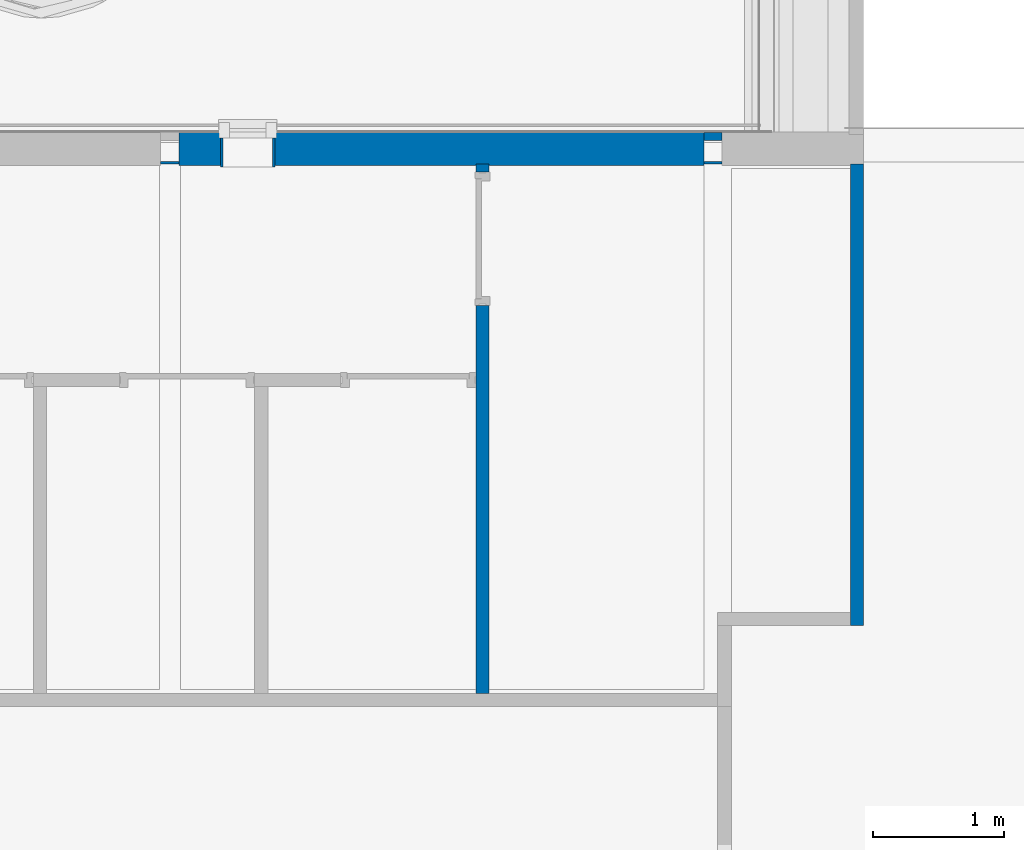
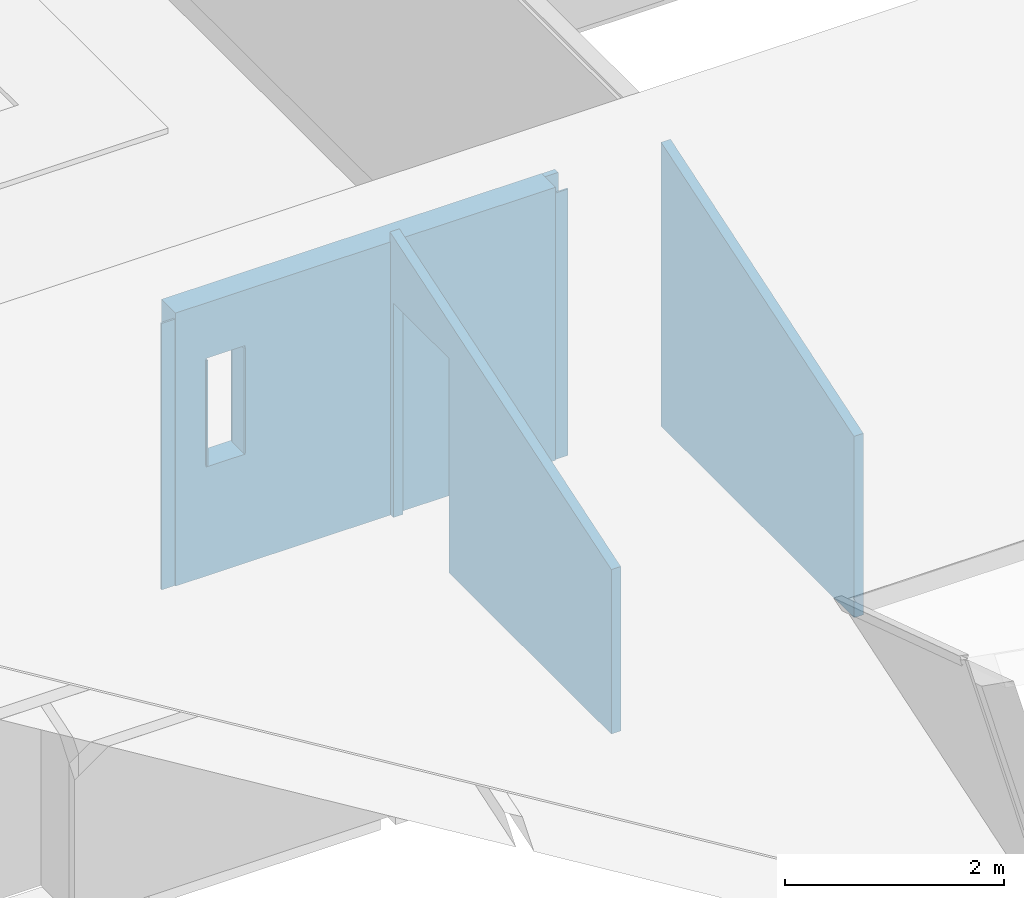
# One storey, part 22 of 66: 8 walls, 3 openings.
"""IFC2X3 building model written with IfcOpenShell, lengths in millimetres."""

import ifcopenshell
import ifcopenshell.guid

model = None  # the IFC model being written
_history = None  # IfcOwnerHistory: only IFC2X3 demands one
_inside = {}  # id of a spatial element -> (the spatial element, [elements in it])
_under = {}  # id of a project, library or spatial element -> (it, [spatial elements below it])
_declared = {}  # id of a project -> (the project, [libraries it declares])
_typed = {}  # id of a type object -> (the type object, [elements of that type])
_made_of = {}  # id of a material, layer set ... -> (it, [elements and type objects made of it])


def new_model(schema):
    """Start an empty IFC model of exactly this schema.

    Asked for "IFC4X3", IfcOpenShell would pick the latest addendum, in which some entities
    have other attributes; the version numbers below select the first issue.
    IFC2X3 requires an IfcOwnerHistory on every rooted entity: one is made here for all.
    """
    global model, _history
    if schema == "IFC4X3":
        model = ifcopenshell.file(schema_version=(4, 3, 0, 0))
    else:
        model = ifcopenshell.file(schema=schema)
    _inside.clear()
    _under.clear()
    _declared.clear()
    _typed.clear()
    _made_of.clear()
    _history = None
    if model.schema == "IFC2X3":
        org = make("IfcOrganization", Name="unknown")
        user = make(
            "IfcPersonAndOrganization",
            ThePerson=make("IfcPerson", FamilyName="unknown"),
            TheOrganization=org,
        )
        app = make(
            "IfcApplication",
            ApplicationDeveloper=org,
            Version="unknown",
            ApplicationFullName="unknown",
            ApplicationIdentifier="unknown",
        )
        _history = make(
            "IfcOwnerHistory",
            OwningUser=user,
            OwningApplication=app,
            ChangeAction="ADDED",
            CreationDate=0,
        )
    return model


def make(cls, **values):
    """One entity of the class cls with the attributes given. An attribute that is None is left unset."""
    return model.create_entity(
        cls, **{name: value for name, value in values.items() if value is not None}
    )


def entity(cls, *values):
    """Any entity or typed value of the class cls, its attributes in the order of the schema. None: left unset."""
    e = model.create_entity(cls)
    for i, value in enumerate(values):
        if value is not None:
            e[i] = value
    return e


def rooted(cls, **values):
    """An entity with a GlobalId (a new one), such as an element, a storey or a relation."""
    return make(cls, GlobalId=ifcopenshell.guid.new(), OwnerHistory=_history, **values)


def si_unit(unit_type, name, prefix=None):
    """IfcSIUnit, for example si_unit("LENGTHUNIT", "METRE", prefix="MILLI")."""
    return make("IfcSIUnit", UnitType=unit_type, Prefix=prefix, Name=name)


def converted_unit(unit_type, name, factor, base, dimensions=None, offset=None):
    """IfcConversionBasedUnit, such as the inch: factor (a typed value) times the base unit."""
    return make(
        "IfcConversionBasedUnit"
        if offset is None
        else "IfcConversionBasedUnitWithOffset",
        ConversionOffset=offset,
        Dimensions=None
        if dimensions is None
        else entity("IfcDimensionalExponents", *dimensions),
        UnitType=unit_type,
        Name=name,
        ConversionFactor=make(
            "IfcMeasureWithUnit", ValueComponent=factor, UnitComponent=base
        ),
    )


def derived_unit(unit_type, elements):
    """IfcDerivedUnit: a product of units, each with its exponent."""
    return make(
        "IfcDerivedUnit",
        Elements=[
            make("IfcDerivedUnitElement", Unit=unit, Exponent=power)
            for unit, power in elements
        ],
        UnitType=unit_type,
    )


def assignment(units):
    """IfcUnitAssignment: the units of a project."""
    return None if units is None else make("IfcUnitAssignment", Units=units)


def point(xyz):
    """IfcCartesianPoint."""
    return None if xyz is None else make("IfcCartesianPoint", Coordinates=xyz)


def direction(xyz):
    """IfcDirection."""
    return None if xyz is None else make("IfcDirection", DirectionRatios=xyz)


def frame(location, z_axis=None, x_axis=None):
    """IfcAxis2Placement3D, a coordinate frame: its origin and axes. An axis left out is left unset."""
    return make(
        "IfcAxis2Placement3D",
        Location=point(location),
        Axis=direction(z_axis),
        RefDirection=direction(x_axis),
    )


def frame_2d(location, x_axis=None):
    """IfcAxis2Placement2D, a coordinate frame in the plane: its origin and x axis."""
    return make(
        "IfcAxis2Placement2D", Location=point(location), RefDirection=direction(x_axis)
    )


def origin():
    """The frame at (0, 0, 0) with its axes left unset."""
    return frame((0.0, 0.0, 0.0))


def origin_2d_with_axis():
    """The frame at (0, 0) in the plane with the x axis (1, 0) written out."""
    return frame_2d((0.0, 0.0), x_axis=(1.0, 0.0))


def place(relative_to, where):
    """IfcLocalPlacement: puts the frame where relative to a parent placement (None: the world)."""
    return make(
        "IfcLocalPlacement", PlacementRelTo=relative_to, RelativePlacement=where
    )


def context(
    kind, dimensions, precision=None, world=None, true_north=None, identifier=None
):
    """IfcGeometricRepresentationContext, for example the 3D "Model" context."""
    return make(
        "IfcGeometricRepresentationContext",
        ContextIdentifier=identifier,
        ContextType=kind,
        CoordinateSpaceDimension=dimensions,
        Precision=precision,
        WorldCoordinateSystem=world,
        TrueNorth=true_north,
    )


def subcontext(parent, identifier, kind, view, scale=None):
    """IfcGeometricRepresentationSubContext, for example "Body" below "Model"."""
    return make(
        "IfcGeometricRepresentationSubContext",
        ContextIdentifier=identifier,
        ContextType=kind,
        ParentContext=parent,
        TargetScale=scale,
        TargetView=view,
    )


def project(units=None, contexts=None):
    """IfcProject with its units and contexts."""
    return rooted(
        "IfcProject",
        Name="project",
        RepresentationContexts=contexts,
        UnitsInContext=assignment(units),
    )


def spatial(cls, under=None, at=None, **own):
    """A site, building, storey or space (cls), placed at a placement, below another one or the project."""
    s = rooted(cls, ObjectPlacement=at, **own)
    if under is not None:
        _under.setdefault(under.id(), (under, []))[1].append(s)
    return s


def profile(cls, at=None, kind="AREA", **sizes):
    """A parametric profile (cls). Its sizes go by their IFC names, for example OverallWidth=200.0."""
    return make(cls, ProfileType=kind, Position=at, **sizes)


def rectangle(**sizes):
    """IfcRectangleProfileDef."""
    return profile("IfcRectangleProfileDef", **sizes)


def extrude(swept, where, along, depth):
    """IfcExtrudedAreaSolid: the profile swept, set in the frame where, extruded along a direction by depth."""
    return make(
        "IfcExtrudedAreaSolid",
        SweptArea=swept,
        Position=where,
        ExtrudedDirection=direction(along),
        Depth=depth,
    )


def clip(a, b, op="DIFFERENCE"):
    """IfcBooleanClippingResult: the solid a cut by the half space b."""
    return make(
        "IfcBooleanClippingResult", Operator=op, FirstOperand=a, SecondOperand=b
    )


def halfspace(plane, agree):
    """IfcHalfSpaceSolid: all space on one side of the plane z = 0 of the frame plane."""
    return make(
        "IfcHalfSpaceSolid",
        BaseSurface=make("IfcPlane", Position=plane),
        AgreementFlag=agree,
    )


def shape(context_of_items, identifier, shape_type, items):
    """IfcShapeRepresentation: the items that make up one representation, for example the "Body"."""
    return make(
        "IfcShapeRepresentation",
        ContextOfItems=context_of_items,
        RepresentationIdentifier=identifier,
        RepresentationType=shape_type,
        Items=items,
    )


def material(Name=None, Category=None):
    """IfcMaterial."""
    return make("IfcMaterial", Name=Name, Category=Category)


def layer(
    of_material, thickness, ventilated=None, Name=None, Category=None, Priority=None
):
    """IfcMaterialLayer: one layer of a wall or slab, of a material (None: an air gap)."""
    return make(
        "IfcMaterialLayer",
        Material=of_material,
        LayerThickness=thickness,
        IsVentilated=ventilated,
        Name=Name,
        Category=Category,
        Priority=Priority,
    )


def layer_set(layers, Name=None):
    """IfcMaterialLayerSet."""
    return make("IfcMaterialLayerSet", MaterialLayers=layers, LayerSetName=Name)


def layer_usage(for_layer_set, set_direction, sense, offset, extent=None):
    """IfcMaterialLayerSetUsage: how a layer set lies in its element."""
    return make(
        "IfcMaterialLayerSetUsage",
        ForLayerSet=for_layer_set,
        LayerSetDirection=set_direction,
        DirectionSense=sense,
        OffsetFromReferenceLine=offset,
        ReferenceExtent=extent,
    )


def made_of(thing, what):
    """Note that an element or type object is made of a material, layer set ...; save() writes the relation."""
    if what is not None:
        _made_of.setdefault(what.id(), (what, []))[1].append(thing)
    return thing


def type_object(cls, material=None, **own):
    """A type object (cls), such as IfcWallType, which elements share."""
    return made_of(rooted(cls, **own), material)


def element(
    cls,
    number,
    at=None,
    inside=None,
    cuts=None,
    type_object=None,
    material=None,
    context=None,
    identifier="Body",
    shape_type=None,
    held_by="IfcProductDefinitionShape",
    body=None,
    shapes=None,
    **own,
):
    """One element of the class cls, such as IfcWall. Its Tag is "e" and its number.

    at: its placement. inside: the storey or other place that contains it. cuts: it is an
    opening in that element (IfcRelVoidsElement). A single representation is given by context,
    identifier, shape_type and body (its items); several are given by shapes. held_by: the class
    of the entity that holds the representations. save() writes the other relations.
    """
    e = rooted(cls, Tag="e%d" % number, ObjectPlacement=at, **own)
    if body is not None:
        shapes = [shape(context, identifier, shape_type, body)]
    if shapes is not None:
        e.Representation = make(held_by, Representations=shapes)
    if inside is not None:
        _inside.setdefault(inside.id(), (inside, []))[1].append(e)
    if cuts is not None:
        rooted(
            "IfcRelVoidsElement", RelatingBuildingElement=cuts, RelatedOpeningElement=e
        )
    if type_object is not None:
        _typed.setdefault(type_object.id(), (type_object, []))[1].append(e)
    return made_of(e, material)


def aggregate(whole, parts):
    """IfcRelAggregates: a whole, such as a stair, and the parts it consists of."""
    return rooted("IfcRelAggregates", RelatingObject=whole, RelatedObjects=parts)


def save(model, path):
    """Write the relations noted so far, then the file.

    IfcRelAggregates (storeys below a building ...), IfcRelContainedInSpatialStructure (elements
    in a storey), IfcRelDefinesByType, IfcRelAssociatesMaterial and IfcRelDeclares: one each for
    every whole, place, type object, material and project.
    """
    for whole, parts in _under.values():
        aggregate(whole, parts)
    for where, things in _inside.values():
        rooted(
            "IfcRelContainedInSpatialStructure",
            RelatedElements=things,
            RelatingStructure=where,
        )
    for kind, things in _typed.values():
        rooted("IfcRelDefinesByType", RelatedObjects=things, RelatingType=kind)
    for what, things in _made_of.values():
        rooted("IfcRelAssociatesMaterial", RelatedObjects=things, RelatingMaterial=what)
    for by, libraries in _declared.values():
        rooted("IfcRelDeclares", RelatingContext=by, RelatedDefinitions=libraries)
    model.write(path)


model = new_model("IFC2X3")

# Units and contexts
model_context = context("Model", 3, precision=0.01, world=origin(), true_north=direction((6.12303176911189e-17, 1.0)))
body_context = subcontext(model_context, "Body", "Model", "MODEL_VIEW")
ifc_project = project(units=[si_unit("LENGTHUNIT", "METRE", prefix="MILLI"), si_unit("AREAUNIT", "SQUARE_METRE"), si_unit("VOLUMEUNIT", "CUBIC_METRE"), converted_unit("PLANEANGLEUNIT", "DEGREE", entity("IfcRatioMeasure", 0.0174532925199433), si_unit("PLANEANGLEUNIT", "RADIAN"), dimensions=[0, 0, 0, 0, 0, 0, 0]), si_unit("MASSUNIT", "GRAM", prefix="KILO"), derived_unit("MASSDENSITYUNIT", [(si_unit("MASSUNIT", "GRAM", prefix="KILO"), 1), (si_unit("LENGTHUNIT", "METRE"), -3)]), derived_unit("MOMENTOFINERTIAUNIT", [(si_unit("LENGTHUNIT", "METRE"), 4)]), si_unit("TIMEUNIT", "SECOND"), si_unit("FREQUENCYUNIT", "HERTZ"), si_unit("THERMODYNAMICTEMPERATUREUNIT", "DEGREE_CELSIUS"), derived_unit("THERMALTRANSMITTANCEUNIT", [(si_unit("MASSUNIT", "GRAM", prefix="KILO"), 1), (si_unit("THERMODYNAMICTEMPERATUREUNIT", "KELVIN"), -1), (si_unit("TIMEUNIT", "SECOND"), -3)]), derived_unit("VOLUMETRICFLOWRATEUNIT", [(si_unit("LENGTHUNIT", "METRE"), 3), (si_unit("TIMEUNIT", "SECOND"), -1)]), si_unit("ELECTRICCURRENTUNIT", "AMPERE"), si_unit("ELECTRICVOLTAGEUNIT", "VOLT"), si_unit("POWERUNIT", "WATT"), si_unit("FORCEUNIT", "NEWTON", prefix="KILO"), si_unit("ILLUMINANCEUNIT", "LUX"), si_unit("LUMINOUSFLUXUNIT", "LUMEN"), si_unit("LUMINOUSINTENSITYUNIT", "CANDELA"), derived_unit("USERDEFINED", [(si_unit("MASSUNIT", "GRAM", prefix="KILO"), -1), (si_unit("LENGTHUNIT", "METRE"), -2), (si_unit("TIMEUNIT", "SECOND"), 3), (si_unit("LUMINOUSFLUXUNIT", "LUMEN"), 1)]), derived_unit("LINEARVELOCITYUNIT", [(si_unit("LENGTHUNIT", "METRE"), 1), (si_unit("TIMEUNIT", "SECOND"), -1)]), si_unit("PRESSUREUNIT", "PASCAL"), derived_unit("USERDEFINED", [(si_unit("LENGTHUNIT", "METRE"), -2), (si_unit("MASSUNIT", "GRAM", prefix="KILO"), 1), (si_unit("TIMEUNIT", "SECOND"), -2)]), derived_unit("LINEARFORCEUNIT", [(si_unit("MASSUNIT", "GRAM", prefix="KILO"), 1), (si_unit("LENGTHUNIT", "METRE"), 1), (si_unit("TIMEUNIT", "SECOND"), -2), (si_unit("LENGTHUNIT", "METRE"), -1)]), derived_unit("PLANARFORCEUNIT", [(si_unit("MASSUNIT", "GRAM", prefix="KILO"), 1), (si_unit("LENGTHUNIT", "METRE"), 1), (si_unit("TIMEUNIT", "SECOND"), -2), (si_unit("LENGTHUNIT", "METRE"), -2)])], contexts=[model_context])

# Site, building, storey
site_placement = place(None, origin())
site = spatial("IfcSite", under=ifc_project, at=site_placement, Name="Default", CompositionType="ELEMENT")
building_placement = place(site_placement, origin())
building = spatial("IfcBuilding", under=site, at=building_placement, Name="-", CompositionType="ELEMENT")
storey_placement = place(building_placement, frame((0.0, 0.0, 3070.0)))
storey = spatial("IfcBuildingStorey", under=building, at=storey_placement, Name="01 eerste verdieping", CompositionType="ELEMENT", Elevation=3070.00000000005)

# Wall
ifc_material_1 = material(Name="NLRS_f7_gipsplaat_gen")
ifc_layer_1 = layer(ifc_material_1, 12.5)
ifc_material_2 = material(Name="NLRS_m1_isolatie")
ifc_layer_2 = layer(ifc_material_2, 75.0)
ifc_layer_3 = layer(ifc_material_1, 12.5)
ifc_layer_set_1 = layer_set([ifc_layer_1, ifc_layer_2, ifc_layer_3], Name="Basic Wall:NLRS_21_WA_Metalstud 100mm")
ifc_layer_usage_1 = layer_usage(ifc_layer_set_1, "AXIS2", "NEGATIVE", 50.0)
wall_type_1 = type_object("IfcWallType", Name="Basic Wall:NLRS_21_WA_Metalstud 100mm", PredefinedType="STANDARD", material=ifc_layer_set_1)
wall_1_placement = place(storey_placement, frame((28730.6948343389, 10159.624095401, -18.0), z_axis=(0.0, 0.0, 1.0), x_axis=(0.0, -1.0, 0.0)))
element("IfcWallStandardCase", 1, at=wall_1_placement, inside=storey, type_object=wall_type_1, material=ifc_layer_usage_1, Name="Basic Wall:NLRS_21_WA_Metalstud 100mm", ObjectType="Basic Wall:NLRS_21_WA_Metalstud 100mm", context=body_context, shape_type="Clipping", body=[
    clip(extrude(rectangle(XDim=3522.89573311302, YDim=100.000000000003, at=frame_2d((1761.44786655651, 0.0), x_axis=(-1.0, 0.0))), origin(), (0.0, 0.0, 1.0), 3166.16764470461), halfspace(frame((0.0, -50.0, 3166.16764470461), z_axis=(0.309016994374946, 0.0, 0.951056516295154), x_axis=(0.0, 1.0, 0.0)), False)),
])

# Wall, openings
ifc_layer_usage_2 = layer_usage(ifc_layer_set_1, "AXIS2", "NEGATIVE", 50.0)
wall_2_placement = place(storey_placement, frame((25872.6948343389, 10159.624095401, 0.0), z_axis=(0.0, 0.0, 1.0), x_axis=(0.0, -1.0, 0.0)))
wall_2 = element("IfcWallStandardCase", 2, at=wall_2_placement, inside=storey, type_object=wall_type_1, material=ifc_layer_usage_2, Name="Basic Wall:NLRS_21_WA_Metalstud 100mm", ObjectType="Basic Wall:NLRS_21_WA_Metalstud 100mm", context=body_context, shape_type="Clipping", body=[
    clip(extrude(rectangle(XDim=4041.50000000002, YDim=100.000000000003, at=frame_2d((2020.75000000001, 1.4210854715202e-14), x_axis=(-1.0, 0.0))), origin(), (0.0, 0.0, 1.0), 3148.16764470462), halfspace(frame((0.0, -50.0, 3148.16764470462), z_axis=(0.309016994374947, 0.0, 0.951056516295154), x_axis=(0.0, 1.0, 0.0)), False)),
])
opening_1_placement = place(wall_2_placement, origin())
element("IfcOpeningElement", 3, at=opening_1_placement, cuts=wall_2, Name="Basic Wall:NLRS_21_WA_Metalstud 100mm", ObjectType="Opening", context=body_context, shape_type="SweptSolid", body=[
    extrude(rectangle(XDim=2462.00000000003, YDim=100.0, at=frame_2d((5.43565192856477e-13, 2.27373675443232e-13), x_axis=(0.0, 1.0))), frame((1650.0, -1084.0, 1161.0), z_axis=(0.0, 1.0, 0.0), x_axis=(-1.0, 0.0, 0.0)), (0.0, 0.0, 1.0), 1034.0),
])
opening_2_placement = place(wall_2_placement, frame((1079.50000000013, 50.0, -70.0)))
element("IfcOpeningElement", 4, at=opening_2_placement, cuts=wall_2, Name="AL_32.i_Binnenkozijn-enkeledeur_Linksdraaiend:Merk a.sp brandwerend:1", ObjectType="Opening", context=body_context, shape_type="SweptSolid", body=[
    extrude(rectangle(XDim=2462.00000000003, YDim=1017.99999999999, at=frame_2d((1231.00000000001, 508.999999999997), x_axis=(1.0, 0.0))), frame((0.0, 0.0, 0.0), z_axis=(0.0, -1.0, 0.0), x_axis=(0.0, 0.0, 1.0)), (0.0, 0.0, 1.0), 100.0),
])

# Walls
ifc_material_3 = material(Name="NLRS_i4_hout_multiplex")
ifc_layer_4 = layer(ifc_material_3, 18.0)
ifc_layer_set_2 = layer_set([ifc_layer_4], Name="Basic Wall:NLRS_41_WA_plaatmateriaal 18mm_gen_aly")
ifc_layer_usage_3 = layer_usage(ifc_layer_set_2, "AXIS2", "POSITIVE", -9.0)
wall_type_2 = type_object("IfcWallType", Name="Basic Wall:NLRS_41_WA_plaatmateriaal 18mm_gen_aly", PredefinedType="STANDARD", material=ifc_layer_set_2)
wall_3_placement = place(storey_placement, frame((23414.1642291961, 10168.624095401, 0.0)))
element("IfcWallStandardCase", 5, at=wall_3_placement, inside=storey, type_object=wall_type_2, material=ifc_layer_usage_3, Name="Basic Wall:NLRS_41_WA_plaatmateriaal 18mm_gen_aly", ObjectType="Basic Wall:NLRS_41_WA_plaatmateriaal 18mm_gen_aly", context=body_context, shape_type="SweptSolid", body=[
    extrude(rectangle(XDim=140.000000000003, YDim=18.0000000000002, at=frame_2d((70.0000000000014, 1.55431223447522e-13), x_axis=(-1.0, 0.0))), origin(), (0.0, 0.0, 1.0), 2970.0),
])
ifc_layer_usage_4 = layer_usage(ifc_layer_set_2, "AXIS2", "POSITIVE", -9.0)
wall_4_placement = place(storey_placement, frame((27561.6642291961, 10168.624095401, 0.0)))
element("IfcWallStandardCase", 6, at=wall_4_placement, inside=storey, type_object=wall_type_2, material=ifc_layer_usage_4, Name="Basic Wall:NLRS_41_WA_plaatmateriaal 18mm_gen_aly", ObjectType="Basic Wall:NLRS_41_WA_plaatmateriaal 18mm_gen_aly", context=body_context, shape_type="SweptSolid", body=[
    extrude(rectangle(XDim=140.000000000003, YDim=18.0000000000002, at=frame_2d((70.0000000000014, 1.55431223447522e-13), x_axis=(-1.0, 0.0))), origin(), (0.0, 0.0, 1.0), 2970.0),
])

# Wall, opening
ifc_layer_5 = layer(ifc_material_3, 10.0)
ifc_layer_6 = layer(ifc_material_2, 235.0)
ifc_layer_7 = layer(ifc_material_3, 10.0)
ifc_layer_set_3 = layer_set([ifc_layer_5, ifc_layer_6, ifc_layer_7], Name="Basic Wall:NLRS_21_WA_HSB-wand_268mm (zonder gips)")
ifc_layer_usage_5 = layer_usage(ifc_layer_set_3, "AXIS2", "NEGATIVE", 127.5)
wall_type_3 = type_object("IfcWallType", Name="Basic Wall:NLRS_21_WA_HSB-wand_268mm (zonder gips)", PredefinedType="STANDARD", material=ifc_layer_set_3)
wall_5_placement = place(storey_placement, frame((23554.1642291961, 10274.6240954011, 0.0)))
wall_5 = element("IfcWallStandardCase", 7, at=wall_5_placement, inside=storey, type_object=wall_type_3, material=ifc_layer_usage_5, Name="Basic Wall:NLRS_21_WA_HSB-wand_268mm (zonder gips)", ObjectType="Basic Wall:NLRS_21_WA_HSB-wand_268mm (zonder gips)", context=body_context, shape_type="SweptSolid", body=[
    extrude(rectangle(XDim=4007.49999999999, YDim=254.999999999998, at=frame_2d((2003.75, -1.63424829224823e-13), x_axis=(-1.0, 0.0))), origin(), (0.0, 0.0, 1.0), 3045.0),
])
opening_3_placement = place(wall_5_placement, origin())
element("IfcOpeningElement", 8, at=opening_3_placement, cuts=wall_5, Name="Basic Wall:NLRS_21_WA_HSB-wand_268mm (zonder gips)", ObjectType="Opening", context=body_context, shape_type="SweptSolid", body=[
    extrude(rectangle(XDim=1210.0, YDim=414.000000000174, at=origin_2d_with_axis()), frame((525.835770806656, 127.499999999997, 1821.0), z_axis=(0.0, -1.0, 0.0), x_axis=(0.0, 0.0, -1.0)), (0.0, 0.0, 1.0), 255.0),
])

# Walls
ifc_material_4 = material(Name="NLRS_n7_isolatie PIR_gen")
ifc_layer_8 = layer(ifc_material_4, 60.0)
ifc_layer_set_4 = layer_set([ifc_layer_8], Name="Basic Wall:NLRS_22_WA_LB_isolatie PIR 60mm")
ifc_layer_usage_6 = layer_usage(ifc_layer_set_4, "AXIS2", "NEGATIVE", 30.0)
wall_type_4 = type_object("IfcWallType", Name="Basic Wall:NLRS_22_WA_LB_isolatie PIR 60mm", PredefinedType="STANDARD", material=ifc_layer_set_4)
wall_6_placement = place(storey_placement, frame((27561.6642291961, 10370.728362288, 0.0)))
element("IfcWallStandardCase", 9, at=wall_6_placement, inside=storey, type_object=wall_type_4, material=ifc_layer_usage_6, Name="Basic Wall:NLRS_22_WA_LB_isolatie PIR 60mm", ObjectType="Basic Wall:NLRS_22_WA_LB_isolatie PIR 60mm", context=body_context, shape_type="SweptSolid", body=[
    extrude(rectangle(XDim=140.000000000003, YDim=59.9999999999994, at=frame_2d((70.0000000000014, 2.57571741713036e-13), x_axis=(-1.0, 0.0))), origin(), (0.0, 0.0, 1.0), 3045.0),
])
ifc_material_5 = material(Name="AL_Multiplex RAL 9002")
ifc_layer_9 = layer(ifc_material_5, 18.0)
ifc_layer_set_5 = layer_set([ifc_layer_9], Name="Basic Wall:NLRS_41_WA_plaatmateriaal 18mm RAL 9002")
ifc_layer_usage_7 = layer_usage(ifc_layer_set_5, "AXIS2", "NEGATIVE", 9.0)
wall_type_5 = type_object("IfcWallType", Name="Basic Wall:NLRS_41_WA_plaatmateriaal 18mm RAL 9002", PredefinedType="STANDARD", material=ifc_layer_set_5)
wall_7_placement = place(storey_placement, frame((23882.0, 10357.1240954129, 1234.0), z_axis=(0.0, 0.0, 1.0), x_axis=(0.0, -1.0, 0.0)))
element("IfcWallStandardCase", 10, at=wall_7_placement, inside=storey, type_object=wall_type_5, material=ifc_layer_usage_7, Name="Basic Wall:NLRS_41_WA_plaatmateriaal 18mm RAL 9002", ObjectType="Basic Wall:NLRS_41_WA_plaatmateriaal 18mm RAL 9002", context=body_context, shape_type="SweptSolid", body=[
    extrude(rectangle(XDim=220.0, YDim=17.9999999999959, at=frame_2d((110.0, 6.12843109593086e-13), x_axis=(-1.0, 0.0))), origin(), (0.0, 0.0, 1.0), 1174.0),
])
ifc_layer_usage_8 = layer_usage(ifc_layer_set_5, "AXIS2", "NEGATIVE", 9.0)
wall_8_placement = place(storey_placement, frame((24278.0, 10357.1240954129, 1234.0), z_axis=(0.0, 0.0, 1.0), x_axis=(0.0, -1.0, 0.0)))
element("IfcWallStandardCase", 11, at=wall_8_placement, inside=storey, type_object=wall_type_5, material=ifc_layer_usage_8, Name="Basic Wall:NLRS_41_WA_plaatmateriaal 18mm RAL 9002", ObjectType="Basic Wall:NLRS_41_WA_plaatmateriaal 18mm RAL 9002", context=body_context, shape_type="SweptSolid", body=[
    extrude(rectangle(XDim=220.0, YDim=17.9999999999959, at=frame_2d((110.0, 6.12843109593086e-13), x_axis=(-1.0, 0.0))), origin(), (0.0, 0.0, 1.0), 1174.0),
])

save(model, "model.ifc")
